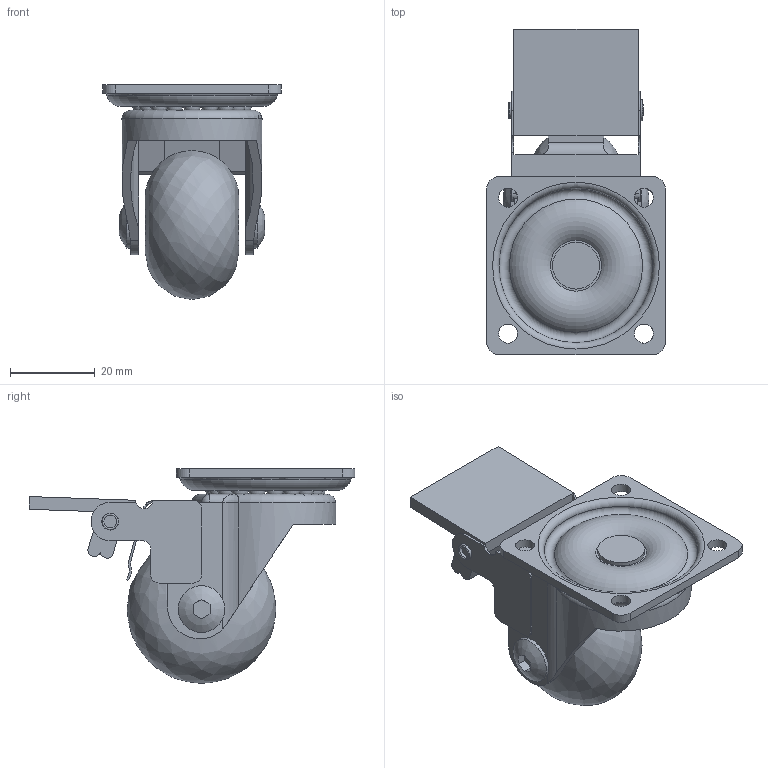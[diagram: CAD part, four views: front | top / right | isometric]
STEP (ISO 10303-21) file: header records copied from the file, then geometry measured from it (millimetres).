
FILE_DESCRIPTION(/* description */ (''),/* implementation_level */ '2;1');
FILE_NAME(/* name */ 'D:\$Workingspace\Designs\Meblowka\rolki\KM-RD-35-SF_CF\KM-RD-35-CF.stp',/* time_stamp */ '2020-05-19T14:43:46+02:00',/* author */ ('tomaszw'),/* organization */ (''),/* preprocessor_version */ 'ST-DEVELOPER v18',/* originating_system */ 'Autodesk Inventor 2020',/* authorisation */ '');
FILE_SCHEMA (('AUTOMOTIVE_DESIGN { 1 0 10303 214 3 1 1 }'));
Length unit declared in the file: millimetre
Products named in the file (1): KM-RD-50-CF
Bounding box: 42 x 76.69 x 50.55 mm (x, y, z)
Volume: 30391.7 mm3; surface area: 21092.3 mm2
Topology: 26 solids, 26 shells, 169 faces, 449 edges, 296 vertices
Faces by surface type: plane 78, cylinder 54, sphere 21, torus 11, bspline 5
Full cylindrical faces by diameter (mm): 3 x1, 3.8 x1, 4 x3, 4.5 x4, 5 x1, 6 x3, 10 x1, 11 x3, 29 x1
Entity records: 5481 total; most frequent: CARTESIAN_POINT 1265, DIRECTION 895, ORIENTED_EDGE 822, EDGE_CURVE 411, AXIS2_PLACEMENT_3D 349, VERTEX_POINT 296, LINE 197, VECTOR 197
